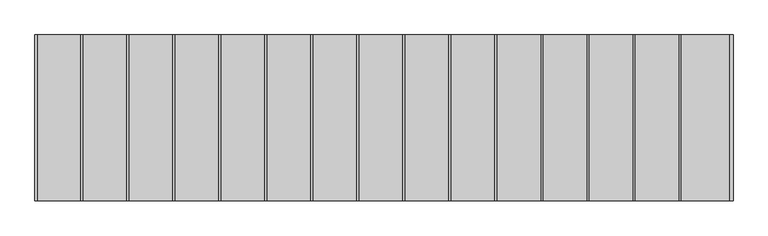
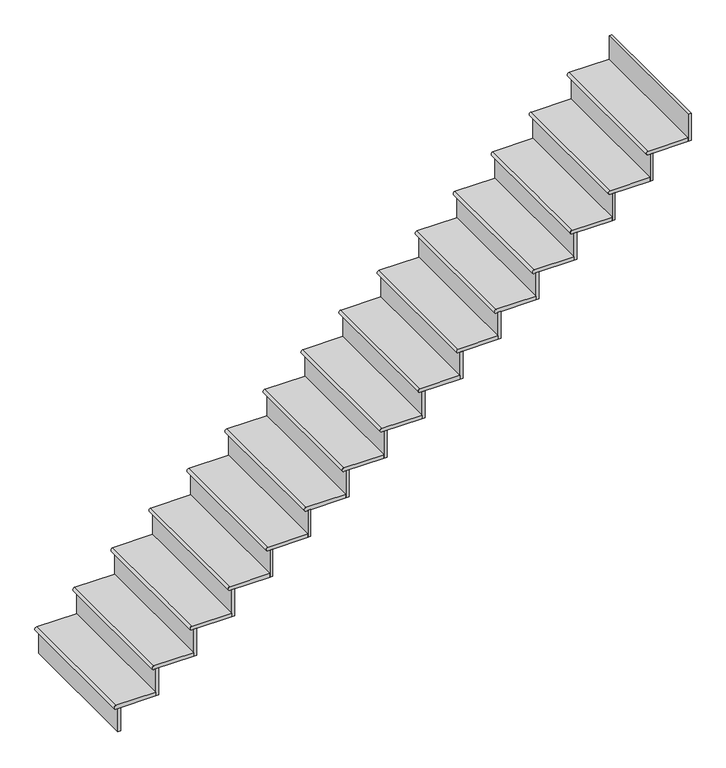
"""IFC4 building model written with IfcOpenShell, lengths in millimetres: stair flight geometry."""

from ifc_helpers import new_model, si_unit, point, frame, frame_2d, origin, origin_with_axes, place, context, project, spatial, polyline, circle_curve, trimmed, segment, composite_curve, outline, extrude, source, transform, mapped, element, save


def stair_flight_ea4a27bd(model_context):
    return source(origin(), model_context, "Body", "SweptSolid", [
        extrude(outline(composite_curve([segment(polyline([(190.5, -26951.4481446), (190.5, -27218.1481446)]), True, "CONTINUOUS"), segment(trimmed(circle_curve(frame_2d((177.8, -27218.1481446)), 12.7), [point((190.5, -27218.1481446))], [point((165.1, -27218.1481446))], False, "CARTESIAN"), True, "CONTINUOUS"), segment(polyline([(165.1, -27218.1481446), (165.1, -26951.4481446), (190.5, -26951.4481446)]), True, "CONTINUOUS")], self_intersect=False)), frame((0.0, 7003.9128094, 0.0), z_axis=(0.0, 1.0, 0.0), x_axis=(0.0, 0.0, 1.0)), (0.0, 0.0, 1.0), 914.4),
        extrude(outline(polyline([(-27186.3981446, 7003.9128094), (-27205.4481446, 7003.9128094), (-27205.4481446, 7918.3128094), (-27186.3981446, 7918.3128094), (-27186.3981446, 7003.9128094)])), origin_with_axes(), (0.0, 0.0, 1.0), 165.1),
        extrude(outline(polyline([(-26932.3981446, 7003.9128094), (-26951.4481446, 7003.9128094), (-26951.4481446, 7918.3128094), (-26932.3981446, 7918.3128094), (-26932.3981446, 7003.9128094)])), frame((0.0, 0.0, 165.1), z_axis=(0.0, 0.0, 1.0), x_axis=(1.0, 0.0, 0.0)), (0.0, 0.0, 1.0), 190.5),
        extrude(outline(composite_curve([segment(polyline([(381.0, -26697.4481446), (381.0, -26964.1481446)]), True, "CONTINUOUS"), segment(trimmed(circle_curve(frame_2d((368.3, -26964.1481446)), 12.7), [point((381.0, -26964.1481446))], [point((355.6, -26964.1481446))], False, "CARTESIAN"), True, "CONTINUOUS"), segment(polyline([(355.6, -26964.1481446), (355.6, -26697.4481446), (381.0, -26697.4481446)]), True, "CONTINUOUS")], self_intersect=False)), frame((0.0, 7003.9128094, 0.0), z_axis=(0.0, 1.0, 0.0), x_axis=(0.0, 0.0, 1.0)), (0.0, 0.0, 1.0), 914.4),
        extrude(outline(polyline([(-26678.3981446, 7003.9128094), (-26697.4481446, 7003.9128094), (-26697.4481446, 7918.3128094), (-26678.3981446, 7918.3128094), (-26678.3981446, 7003.9128094)])), frame((0.0, 0.0, 355.6), z_axis=(0.0, 0.0, 1.0), x_axis=(1.0, 0.0, 0.0)), (0.0, 0.0, 1.0), 190.5),
        extrude(outline(composite_curve([segment(polyline([(571.5, -26443.4481446), (571.5, -26710.1481446)]), True, "CONTINUOUS"), segment(trimmed(circle_curve(frame_2d((558.8, -26710.1481446)), 12.7), [point((571.5, -26710.1481446))], [point((546.1, -26710.1481446))], False, "CARTESIAN"), True, "CONTINUOUS"), segment(polyline([(546.1, -26710.1481446), (546.1, -26443.4481446), (571.5, -26443.4481446)]), True, "CONTINUOUS")], self_intersect=False)), frame((0.0, 7003.9128094, 0.0), z_axis=(0.0, 1.0, 0.0), x_axis=(0.0, 0.0, 1.0)), (0.0, 0.0, 1.0), 914.4),
        extrude(outline(polyline([(-26424.3981446, 7003.9128094), (-26443.4481446, 7003.9128094), (-26443.4481446, 7918.3128094), (-26424.3981446, 7918.3128094), (-26424.3981446, 7003.9128094)])), frame((0.0, 0.0, 546.1), z_axis=(0.0, 0.0, 1.0), x_axis=(1.0, 0.0, 0.0)), (0.0, 0.0, 1.0), 190.5),
        extrude(outline(composite_curve([segment(polyline([(762.0, -26189.4481446), (762.0, -26456.1481446)]), True, "CONTINUOUS"), segment(trimmed(circle_curve(frame_2d((749.3, -26456.1481446)), 12.7), [point((762.0, -26456.1481446))], [point((736.6, -26456.1481446))], False, "CARTESIAN"), True, "CONTINUOUS"), segment(polyline([(736.6, -26456.1481446), (736.6, -26189.4481446), (762.0, -26189.4481446)]), True, "CONTINUOUS")], self_intersect=False)), frame((0.0, 7003.9128094, 0.0), z_axis=(0.0, 1.0, 0.0), x_axis=(0.0, 0.0, 1.0)), (0.0, 0.0, 1.0), 914.4),
        extrude(outline(polyline([(-26170.3981446, 7003.9128094), (-26189.4481446, 7003.9128094), (-26189.4481446, 7918.3128094), (-26170.3981446, 7918.3128094), (-26170.3981446, 7003.9128094)])), frame((0.0, 0.0, 736.6), z_axis=(0.0, 0.0, 1.0), x_axis=(1.0, 0.0, 0.0)), (0.0, 0.0, 1.0), 190.5),
        extrude(outline(composite_curve([segment(polyline([(952.5, -25935.4481446), (952.5, -26202.1481446)]), True, "CONTINUOUS"), segment(trimmed(circle_curve(frame_2d((939.8, -26202.1481446)), 12.7), [point((952.5, -26202.1481446))], [point((927.1, -26202.1481446))], False, "CARTESIAN"), True, "CONTINUOUS"), segment(polyline([(927.1, -26202.1481446), (927.1, -25935.4481446), (952.5, -25935.4481446)]), True, "CONTINUOUS")], self_intersect=False)), frame((0.0, 7003.9128094, 0.0), z_axis=(0.0, 1.0, 0.0), x_axis=(0.0, 0.0, 1.0)), (0.0, 0.0, 1.0), 914.4),
        extrude(outline(polyline([(-25916.3981446, 7003.9128094), (-25935.4481446, 7003.9128094), (-25935.4481446, 7918.3128094), (-25916.3981446, 7918.3128094), (-25916.3981446, 7003.9128094)])), frame((0.0, 0.0, 927.1), z_axis=(0.0, 0.0, 1.0), x_axis=(1.0, 0.0, 0.0)), (0.0, 0.0, 1.0), 190.5),
        extrude(outline(composite_curve([segment(polyline([(1143.0, -25681.4481446), (1143.0, -25948.1481446)]), True, "CONTINUOUS"), segment(trimmed(circle_curve(frame_2d((1130.3, -25948.1481446)), 12.7), [point((1143.0, -25948.1481446))], [point((1117.6, -25948.1481446))], False, "CARTESIAN"), True, "CONTINUOUS"), segment(polyline([(1117.6, -25948.1481446), (1117.6, -25681.4481446), (1143.0, -25681.4481446)]), True, "CONTINUOUS")], self_intersect=False)), frame((0.0, 7003.9128094, 0.0), z_axis=(0.0, 1.0, 0.0), x_axis=(0.0, 0.0, 1.0)), (0.0, 0.0, 1.0), 914.4),
        extrude(outline(polyline([(-25662.3981446, 7003.9128094), (-25681.4481446, 7003.9128094), (-25681.4481446, 7918.3128094), (-25662.3981446, 7918.3128094), (-25662.3981446, 7003.9128094)])), frame((0.0, 0.0, 1117.6), z_axis=(0.0, 0.0, 1.0), x_axis=(1.0, 0.0, 0.0)), (0.0, 0.0, 1.0), 190.5),
        extrude(outline(composite_curve([segment(polyline([(1333.5, -25427.4481446), (1333.5, -25694.1481446)]), True, "CONTINUOUS"), segment(trimmed(circle_curve(frame_2d((1320.8, -25694.1481446)), 12.7), [point((1333.5, -25694.1481446))], [point((1308.1, -25694.1481446))], False, "CARTESIAN"), True, "CONTINUOUS"), segment(polyline([(1308.1, -25694.1481446), (1308.1, -25427.4481446), (1333.5, -25427.4481446)]), True, "CONTINUOUS")], self_intersect=False)), frame((0.0, 7003.9128094, 0.0), z_axis=(0.0, 1.0, 0.0), x_axis=(0.0, 0.0, 1.0)), (0.0, 0.0, 1.0), 914.4),
        extrude(outline(polyline([(-25408.3981446, 7003.9128094), (-25427.4481446, 7003.9128094), (-25427.4481446, 7918.3128094), (-25408.3981446, 7918.3128094), (-25408.3981446, 7003.9128094)])), frame((0.0, 0.0, 1308.1), z_axis=(0.0, 0.0, 1.0), x_axis=(1.0, 0.0, 0.0)), (0.0, 0.0, 1.0), 190.5),
        extrude(outline(composite_curve([segment(polyline([(1524.0, -25173.4481446), (1524.0, -25440.1481446)]), True, "CONTINUOUS"), segment(trimmed(circle_curve(frame_2d((1511.3, -25440.1481446)), 12.7), [point((1524.0, -25440.1481446))], [point((1498.6, -25440.1481446))], False, "CARTESIAN"), True, "CONTINUOUS"), segment(polyline([(1498.6, -25440.1481446), (1498.6, -25173.4481446), (1524.0, -25173.4481446)]), True, "CONTINUOUS")], self_intersect=False)), frame((0.0, 7003.9128094, 0.0), z_axis=(0.0, 1.0, 0.0), x_axis=(0.0, 0.0, 1.0)), (0.0, 0.0, 1.0), 914.4),
        extrude(outline(polyline([(-25154.3981446, 7003.9128094), (-25173.4481446, 7003.9128094), (-25173.4481446, 7918.3128094), (-25154.3981446, 7918.3128094), (-25154.3981446, 7003.9128094)])), frame((0.0, 0.0, 1498.6), z_axis=(0.0, 0.0, 1.0), x_axis=(1.0, 0.0, 0.0)), (0.0, 0.0, 1.0), 190.5),
        extrude(outline(composite_curve([segment(polyline([(1714.5, -24919.4481446), (1714.5, -25186.1481446)]), True, "CONTINUOUS"), segment(trimmed(circle_curve(frame_2d((1701.8, -25186.1481446)), 12.7), [point((1714.5, -25186.1481446))], [point((1689.1, -25186.1481446))], False, "CARTESIAN"), True, "CONTINUOUS"), segment(polyline([(1689.1, -25186.1481446), (1689.1, -24919.4481446), (1714.5, -24919.4481446)]), True, "CONTINUOUS")], self_intersect=False)), frame((0.0, 7003.9128094, 0.0), z_axis=(0.0, 1.0, 0.0), x_axis=(0.0, 0.0, 1.0)), (0.0, 0.0, 1.0), 914.4),
        extrude(outline(polyline([(-24900.3981446, 7003.9128094), (-24919.4481446, 7003.9128094), (-24919.4481446, 7918.3128094), (-24900.3981446, 7918.3128094), (-24900.3981446, 7003.9128094)])), frame((0.0, 0.0, 1689.1), z_axis=(0.0, 0.0, 1.0), x_axis=(1.0, 0.0, 0.0)), (0.0, 0.0, 1.0), 190.5),
        extrude(outline(composite_curve([segment(polyline([(1905.0, -24665.4481446), (1905.0, -24932.1481446)]), True, "CONTINUOUS"), segment(trimmed(circle_curve(frame_2d((1892.3, -24932.1481446)), 12.7), [point((1905.0, -24932.1481446))], [point((1879.6, -24932.1481446))], False, "CARTESIAN"), True, "CONTINUOUS"), segment(polyline([(1879.6, -24932.1481446), (1879.6, -24665.4481446), (1905.0, -24665.4481446)]), True, "CONTINUOUS")], self_intersect=False)), frame((0.0, 7003.9128094, 0.0), z_axis=(0.0, 1.0, 0.0), x_axis=(0.0, 0.0, 1.0)), (0.0, 0.0, 1.0), 914.4),
        extrude(outline(polyline([(-24646.3981446, 7003.9128094), (-24665.4481446, 7003.9128094), (-24665.4481446, 7918.3128094), (-24646.3981446, 7918.3128094), (-24646.3981446, 7003.9128094)])), frame((0.0, 0.0, 1879.6), z_axis=(0.0, 0.0, 1.0), x_axis=(1.0, 0.0, 0.0)), (0.0, 0.0, 1.0), 190.5),
        extrude(outline(composite_curve([segment(polyline([(2095.5, -24411.4481446), (2095.5, -24678.1481446)]), True, "CONTINUOUS"), segment(trimmed(circle_curve(frame_2d((2082.8, -24678.1481446)), 12.7), [point((2095.5, -24678.1481446))], [point((2070.1, -24678.1481446))], False, "CARTESIAN"), True, "CONTINUOUS"), segment(polyline([(2070.1, -24678.1481446), (2070.1, -24411.4481446), (2095.5, -24411.4481446)]), True, "CONTINUOUS")], self_intersect=False)), frame((0.0, 7003.9128094, 0.0), z_axis=(0.0, 1.0, 0.0), x_axis=(0.0, 0.0, 1.0)), (0.0, 0.0, 1.0), 914.4),
        extrude(outline(polyline([(-24392.3981446, 7003.9128094), (-24411.4481446, 7003.9128094), (-24411.4481446, 7918.3128094), (-24392.3981446, 7918.3128094), (-24392.3981446, 7003.9128094)])), frame((0.0, 0.0, 2070.1), z_axis=(0.0, 0.0, 1.0), x_axis=(1.0, 0.0, 0.0)), (0.0, 0.0, 1.0), 190.5),
        extrude(outline(composite_curve([segment(polyline([(2286.0, -24157.4481446), (2286.0, -24424.1481446)]), True, "CONTINUOUS"), segment(trimmed(circle_curve(frame_2d((2273.3, -24424.1481446)), 12.7), [point((2286.0, -24424.1481446))], [point((2260.6, -24424.1481446))], False, "CARTESIAN"), True, "CONTINUOUS"), segment(polyline([(2260.6, -24424.1481446), (2260.6, -24157.4481446), (2286.0, -24157.4481446)]), True, "CONTINUOUS")], self_intersect=False)), frame((0.0, 7003.9128094, 0.0), z_axis=(0.0, 1.0, 0.0), x_axis=(0.0, 0.0, 1.0)), (0.0, 0.0, 1.0), 914.4),
        extrude(outline(polyline([(-24138.3981446, 7003.9128094), (-24157.4481446, 7003.9128094), (-24157.4481446, 7918.3128094), (-24138.3981446, 7918.3128094), (-24138.3981446, 7003.9128094)])), frame((0.0, 0.0, 2260.6), z_axis=(0.0, 0.0, 1.0), x_axis=(1.0, 0.0, 0.0)), (0.0, 0.0, 1.0), 190.5),
        extrude(outline(composite_curve([segment(polyline([(2476.5, -23903.4481446), (2476.5, -24170.1481446)]), True, "CONTINUOUS"), segment(trimmed(circle_curve(frame_2d((2463.8, -24170.1481446)), 12.7), [point((2476.5, -24170.1481446))], [point((2451.1, -24170.1481446))], False, "CARTESIAN"), True, "CONTINUOUS"), segment(polyline([(2451.1, -24170.1481446), (2451.1, -23903.4481446), (2476.5, -23903.4481446)]), True, "CONTINUOUS")], self_intersect=False)), frame((0.0, 7003.9128094, 0.0), z_axis=(0.0, 1.0, 0.0), x_axis=(0.0, 0.0, 1.0)), (0.0, 0.0, 1.0), 914.4),
        extrude(outline(polyline([(-23884.3981446, 7003.9128094), (-23903.4481446, 7003.9128094), (-23903.4481446, 7918.3128094), (-23884.3981446, 7918.3128094), (-23884.3981446, 7003.9128094)])), frame((0.0, 0.0, 2451.1), z_axis=(0.0, 0.0, 1.0), x_axis=(1.0, 0.0, 0.0)), (0.0, 0.0, 1.0), 190.5),
        extrude(outline(composite_curve([segment(polyline([(2667.0, -23649.4481446), (2667.0, -23916.1481446)]), True, "CONTINUOUS"), segment(trimmed(circle_curve(frame_2d((2654.3, -23916.1481446)), 12.7), [point((2667.0, -23916.1481446))], [point((2641.6, -23916.1481446))], False, "CARTESIAN"), True, "CONTINUOUS"), segment(polyline([(2641.6, -23916.1481446), (2641.6, -23649.4481446), (2667.0, -23649.4481446)]), True, "CONTINUOUS")], self_intersect=False)), frame((0.0, 7003.9128094, 0.0), z_axis=(0.0, 1.0, 0.0), x_axis=(0.0, 0.0, 1.0)), (0.0, 0.0, 1.0), 914.4),
        extrude(outline(polyline([(-23630.3981446, 7003.9128094), (-23649.4481446, 7003.9128094), (-23649.4481446, 7918.3128094), (-23630.3981446, 7918.3128094), (-23630.3981446, 7003.9128094)])), frame((0.0, 0.0, 2641.6), z_axis=(0.0, 0.0, 1.0), x_axis=(1.0, 0.0, 0.0)), (0.0, 0.0, 1.0), 190.5),
        extrude(outline(polyline([(-23376.3981446, 7003.9128094), (-23395.4481446, 7003.9128094), (-23395.4481446, 7918.3128094), (-23376.3981446, 7918.3128094), (-23376.3981446, 7003.9128094)])), frame((0.0, 0.0, 2832.1), z_axis=(0.0, 0.0, 1.0), x_axis=(1.0, 0.0, 0.0)), (0.0, 0.0, 1.0), 190.5),
        extrude(outline(composite_curve([segment(polyline([(2857.5, -23395.4481446), (2857.5, -23662.1481446)]), True, "CONTINUOUS"), segment(trimmed(circle_curve(frame_2d((2844.8, -23662.1481446)), 12.7), [point((2857.5, -23662.1481446))], [point((2832.1, -23662.1481446))], False, "CARTESIAN"), True, "CONTINUOUS"), segment(polyline([(2832.1, -23662.1481446), (2832.1, -23395.4481446), (2857.5, -23395.4481446)]), True, "CONTINUOUS")], self_intersect=False)), frame((0.0, 7003.9128094, 0.0), z_axis=(0.0, 1.0, 0.0), x_axis=(0.0, 0.0, 1.0)), (0.0, 0.0, 1.0), 914.4),
    ])


if __name__ == "__main__":
    model = new_model("IFC4")
    model_context = context("Model", 3, world=origin())
    ifc_project = project(units=[si_unit("LENGTHUNIT", "METRE", prefix="MILLI")], contexts=[model_context])
    site = spatial("IfcSite", under=ifc_project)
    building = spatial("IfcBuilding", under=site)
    placement = place(None, origin())
    stair_flight_shape = stair_flight_ea4a27bd(model_context)
    element("IfcStairFlight", 1, ObjectType="Unassigned Steps with 1\" Tread 1\" Nosing 3/4\" Riser", at=placement, inside=building, context=model_context, shape_type="MappedRepresentation", body=[
        mapped(stair_flight_shape, transform((0.0, 0.0, 0.0), x_axis=(1.0, 0.0, 0.0), y_axis=(0.0, 1.0, 0.0), z_axis=(0.0, 0.0, 1.0))),
    ])
    save(model, "model.ifc")
